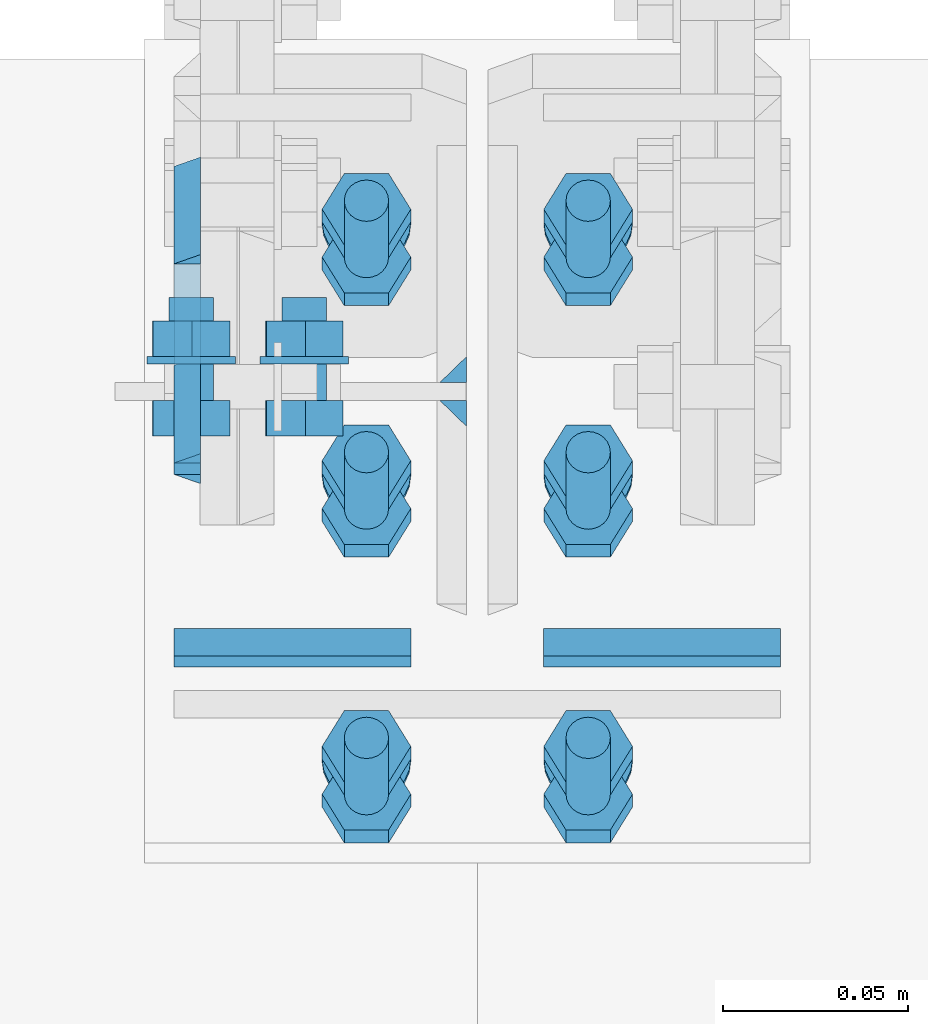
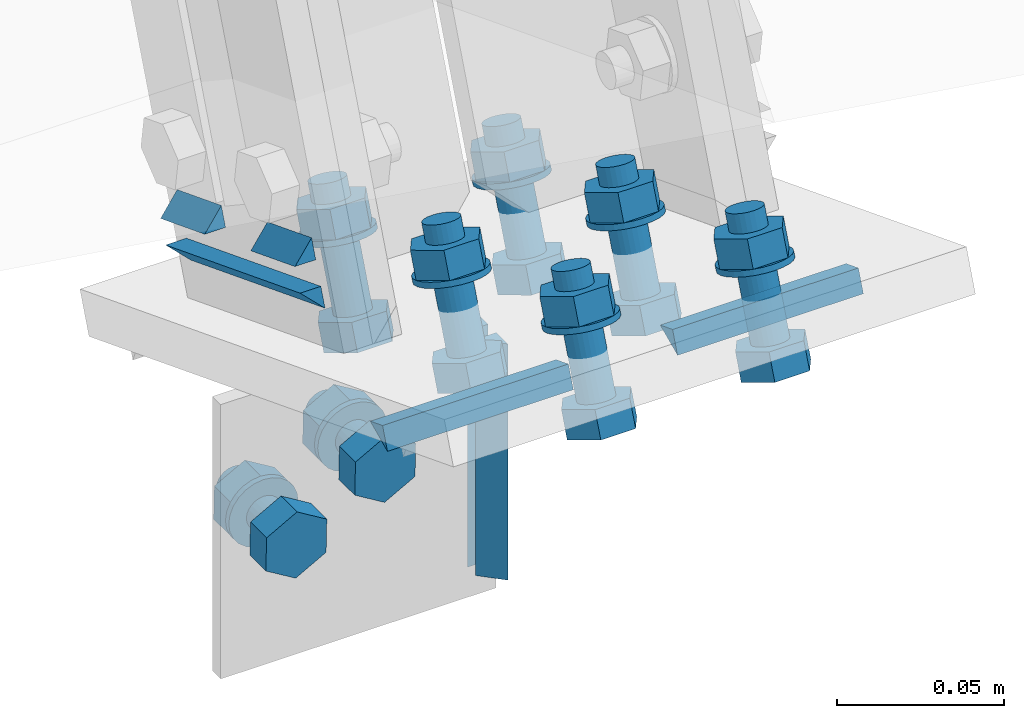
# One storey, part 44 of 72: 32 mechanical fasteners, 11 fasteners.
"""IFC4 building model written with IfcOpenShell, lengths in metres."""

from ifc_helpers import new_model, si_unit, frame, origin_with_axes, place, context, project, spatial, polyline, outline, extrude, type_object, element, save


model = new_model("IFC4")

# Units and contexts
model_context = context("Model", 3, precision=1e-05, world=origin_with_axes())
ifc_project = project(units=[si_unit("LENGTHUNIT", "METRE"), si_unit("AREAUNIT", "SQUARE_METRE"), si_unit("VOLUMEUNIT", "CUBIC_METRE"), si_unit("MASSUNIT", "GRAM", prefix="KILO"), si_unit("TIMEUNIT", "SECOND"), si_unit("PLANEANGLEUNIT", "RADIAN"), si_unit("SOLIDANGLEUNIT", "STERADIAN"), si_unit("THERMODYNAMICTEMPERATUREUNIT", "DEGREE_CELSIUS")], contexts=[model_context])

# Site, building, storey
placement_1 = place(None, origin_with_axes())
site = spatial("IfcSite", under=ifc_project, at=placement_1, Name="Italia", CompositionType="ELEMENT")
building = spatial("IfcBuilding", under=site, at=placement_1, Name="Uffici", CompositionType="ELEMENT")
storey = spatial("IfcBuildingStorey", under=building, at=placement_1, Name="Storey 0", CompositionType="ELEMENT", Elevation=0.0)

# Mechanical fasteners
mechanical_fastener_type_1 = type_object("IfcMechanicalFastenerType", Name="Collegamento 0207_0106", PredefinedType="BOLT")
placement_2 = place(placement_1, origin_with_axes())
mechanical_fastener_1_placement = place(placement_2, origin_with_axes())
element("IfcMechanicalFastener", 1, at=mechanical_fastener_1_placement, inside=storey, type_object=mechanical_fastener_type_1, Name="Collegamento 0207_0106", NominalDiameter=0.012, context=model_context, shape_type="SweptSolid", body=[
    extrude(outline(polyline([(0.0, 0.0), (0.0105102, 0.00579119), (0.0107501, 0.0177889), (0.000479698, 0.0239954), (-0.0100305, 0.0182042), (-0.0102704, 0.00620651), (0.0, 0.0)])), frame((3.15797, 4.8075, 5.07431), z_axis=(0.0, -1.0, 0.0), x_axis=(1.0, 0.0, 0.0)), (0.0, 0.0, 1.0), 0.00959969),
])
mechanical_fastener_type_2 = type_object("IfcMechanicalFastenerType", Name="Collegamento 0207_0106", PredefinedType="BOLT")
mechanical_fastener_2_placement = place(placement_2, origin_with_axes())
element("IfcMechanicalFastener", 2, at=mechanical_fastener_2_placement, inside=storey, type_object=mechanical_fastener_type_2, Name="Collegamento 0207_0106", NominalDiameter=0.012, context=model_context, shape_type="SweptSolid", body=[
    extrude(outline(polyline([(0.0, 0.0), (-0.000204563, -0.00155306), (-0.000803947, -0.00299978), (-0.00175738, -0.00424242), (-0.00300002, -0.00519609), (-0.00444722, -0.00579548), (-0.00600004, -0.00600004), (-0.00755286, -0.00579548), (-0.00900006, -0.00519609), (-0.0102427, -0.00424242), (-0.0111961, -0.00299978), (-0.0117955, -0.00155306), (-0.0120001, 0.0), (-0.0117955, 0.00155306), (-0.0111961, 0.00299978), (-0.0102427, 0.00424242), (-0.00900006, 0.00519609), (-0.00755286, 0.00579548), (-0.00600004, 0.00600004), (-0.00444722, 0.00579548), (-0.00300002, 0.00519609), (-0.00175738, 0.00424242), (-0.000803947, 0.00299978), (-0.000204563, 0.00155306), (0.0, 0.0)])), frame((3.16421, 4.8355, 5.0863), z_axis=(0.0, -1.0, 0.0), x_axis=(1.0, 0.0, 0.0)), (0.0, 0.0, 1.0), 0.0280004),
])
mechanical_fastener_type_3 = type_object("IfcMechanicalFastenerType", Name="Collegamento 0207_0106", PredefinedType="BOLT")
mechanical_fastener_3_placement = place(placement_2, origin_with_axes())
element("IfcMechanicalFastener", 3, at=mechanical_fastener_3_placement, inside=storey, type_object=mechanical_fastener_type_3, Name="Collegamento 0207_0106", NominalDiameter=0.012, context=model_context, shape_type="SweptSolid", body=[
    extrude(outline(polyline([(0.0, 0.0), (0.0105102, 0.00579119), (0.0107501, 0.0177889), (0.000479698, 0.0239954), (-0.0100305, 0.0182042), (-0.0102704, 0.00620651), (0.0, 0.0)])), frame((3.15797, 4.8291, 5.07431), z_axis=(0.0, -1.0, 0.0), x_axis=(1.0, 0.0, 0.0)), (0.0, 0.0, 1.0), 0.00960016),
])
mechanical_fastener_type_4 = type_object("IfcMechanicalFastenerType", Name="Collegamento 0207_0106", PredefinedType="BOLT")
mechanical_fastener_4_placement = place(placement_2, origin_with_axes())
element("IfcMechanicalFastener", 4, at=mechanical_fastener_4_placement, inside=storey, type_object=mechanical_fastener_type_4, Name="Collegamento 0207_0106", NominalDiameter=0.024, context=model_context, shape_type="SweptSolid", body=[
    extrude(outline(polyline([(0.0, 0.0), (-0.000408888, -0.00310564), (-0.00160789, -0.00600004), (-0.00351477, -0.00848532), (-0.00600004, -0.0103922), (-0.00889421, -0.011591), (-0.0120001, -0.0120001), (-0.015106, -0.011591), (-0.0180001, -0.0103922), (-0.0204854, -0.00848532), (-0.0223923, -0.00600004), (-0.0235913, -0.00310564), (-0.0240002, 0.0), (-0.0235913, 0.00310564), (-0.0223923, 0.00600004), (-0.0204854, 0.00848532), (-0.0180001, 0.0103922), (-0.015106, 0.011591), (-0.0120001, 0.0120001), (-0.00889421, 0.011591), (-0.00600004, 0.0103922), (-0.00351477, 0.00848532), (-0.00160789, 0.00600004), (-0.000408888, 0.00310564), (0.0, 0.0)])), frame((3.17021, 4.8195, 5.0863), z_axis=(0.0, -1.0, 0.0), x_axis=(1.0, 0.0, 0.0)), (0.0, 0.0, 1.0), 0.00199986),
])
mechanical_fastener_type_5 = type_object("IfcMechanicalFastenerType", Name="Collegamento 0207_0106", PredefinedType="BOLT")
mechanical_fastener_5_placement = place(placement_2, origin_with_axes())
element("IfcMechanicalFastener", 5, at=mechanical_fastener_5_placement, inside=storey, type_object=mechanical_fastener_type_5, Name="Collegamento 0207_0106", NominalDiameter=0.0119996, context=model_context, shape_type="SweptSolid", body=[
    extrude(outline(polyline([(0.0, 0.0), (0.0105102, 0.00579119), (0.0107498, 0.0177884), (0.00047946, 0.0239949), (-0.0100305, 0.0182037), (-0.0102704, 0.00620604), (0.0, 0.0)])), frame((3.12731, 4.8075, 5.05741), z_axis=(0.0, -1.0, 0.0), x_axis=(1.0, 0.0, 0.0)), (0.0, 0.0, 1.0), 0.00959969),
])
mechanical_fastener_type_6 = type_object("IfcMechanicalFastenerType", Name="Collegamento 0207_0106", PredefinedType="BOLT")
mechanical_fastener_6_placement = place(placement_2, origin_with_axes())
element("IfcMechanicalFastener", 6, at=mechanical_fastener_6_placement, inside=storey, type_object=mechanical_fastener_type_6, Name="Collegamento 0207_0106", NominalDiameter=0.012, context=model_context, shape_type="SweptSolid", body=[
    extrude(outline(polyline([(0.0, 0.0), (-0.000204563, -0.00155306), (-0.000803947, -0.00299978), (-0.00175738, -0.00424242), (-0.00300002, -0.00519609), (-0.00444722, -0.00579548), (-0.00600004, -0.00600004), (-0.00755286, -0.00579548), (-0.00900006, -0.00519609), (-0.0102427, -0.00424242), (-0.0111961, -0.00299978), (-0.0117955, -0.00155306), (-0.0120001, 0.0), (-0.0117955, 0.00155306), (-0.0111961, 0.00299978), (-0.0102427, 0.00424242), (-0.00900006, 0.00519609), (-0.00755286, 0.00579548), (-0.00600004, 0.00600004), (-0.00444722, 0.00579548), (-0.00300002, 0.00519609), (-0.00175738, 0.00424242), (-0.000803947, 0.00299978), (-0.000204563, 0.00155306), (0.0, 0.0)])), frame((3.13355, 4.8355, 5.06941), z_axis=(0.0, -1.0, 0.0), x_axis=(1.0, 0.0, 0.0)), (0.0, 0.0, 1.0), 0.0280004),
])
mechanical_fastener_type_7 = type_object("IfcMechanicalFastenerType", Name="Collegamento 0207_0106", PredefinedType="BOLT")
mechanical_fastener_7_placement = place(placement_2, origin_with_axes())
element("IfcMechanicalFastener", 7, at=mechanical_fastener_7_placement, inside=storey, type_object=mechanical_fastener_type_7, Name="Collegamento 0207_0106", NominalDiameter=0.0119996, context=model_context, shape_type="SweptSolid", body=[
    extrude(outline(polyline([(0.0, 0.0), (0.0105102, 0.00579119), (0.0107498, 0.0177884), (0.00047946, 0.0239949), (-0.0100305, 0.0182037), (-0.0102704, 0.00620604), (0.0, 0.0)])), frame((3.12731, 4.8291, 5.05741), z_axis=(0.0, -1.0, 0.0), x_axis=(1.0, 0.0, 0.0)), (0.0, 0.0, 1.0), 0.00960016),
])
mechanical_fastener_type_8 = type_object("IfcMechanicalFastenerType", Name="Collegamento 0207_0106", PredefinedType="BOLT")
mechanical_fastener_8_placement = place(placement_2, origin_with_axes())
element("IfcMechanicalFastener", 8, at=mechanical_fastener_8_placement, inside=storey, type_object=mechanical_fastener_type_8, Name="Collegamento 0207_0106", NominalDiameter=0.024, context=model_context, shape_type="SweptSolid", body=[
    extrude(outline(polyline([(0.0, 0.0), (-0.000408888, -0.00310564), (-0.00160789, -0.00600004), (-0.00351477, -0.00848532), (-0.00600004, -0.0103922), (-0.00889421, -0.011591), (-0.0120001, -0.0120001), (-0.015106, -0.011591), (-0.0180001, -0.0103922), (-0.0204854, -0.00848532), (-0.0223923, -0.00600004), (-0.0235913, -0.00310564), (-0.0240002, 0.0), (-0.0235913, 0.00310564), (-0.0223923, 0.00600004), (-0.0204854, 0.00848532), (-0.0180001, 0.0103922), (-0.015106, 0.011591), (-0.0120001, 0.0120001), (-0.00889421, 0.011591), (-0.00600004, 0.0103922), (-0.00351477, 0.00848532), (-0.00160789, 0.00600004), (-0.000408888, 0.00310564), (0.0, 0.0)])), frame((3.13955, 4.8195, 5.06941), z_axis=(0.0, -1.0, 0.0), x_axis=(1.0, 0.0, 0.0)), (0.0, 0.0, 1.0), 0.00199986),
])

# Fasteners
fastener_type_1 = type_object("IfcFastenerType", Name="Collegamento 0207_0106", PredefinedType="WELD")
fastener_1_placement = place(placement_2, origin_with_axes())
element("IfcFastener", 9, at=fastener_1_placement, inside=storey, type_object=fastener_type_1, Name="Collegamento 0207_0106", context=model_context, shape_type="SweptSolid", body=[
    extrude(outline(polyline([(0.0, 0.0), (-0.00695801, -0.00717354), (-0.00695801, 0.0), (0.0, 0.0)])), frame((3.20205, 4.81941, 5.115), z_axis=(0.0, 0.0, -1.0), x_axis=(0.0, 1.0, 0.0)), (0.0, 0.0, 1.0), 0.0860996),
])
fastener_type_2 = type_object("IfcFastenerType", Name="Collegamento 0207_0106", PredefinedType="WELD")
fastener_2_placement = place(placement_2, origin_with_axes())
element("IfcFastener", 10, at=fastener_2_placement, inside=storey, type_object=fastener_type_2, Name="Collegamento 0207_0106", context=model_context, shape_type="SweptSolid", body=[
    extrude(outline(polyline([(0.0, 0.0), (0.00695801, 0.00717354), (0.00695801, 0.0), (0.0, 0.0)])), frame((3.20205, 4.80059, 5.0289), z_axis=(0.0, 0.0, 1.0), x_axis=(0.0, 1.0, 0.0)), (0.0, 0.0, 1.0), 0.0860996),
])
fastener_type_3 = type_object("IfcFastenerType", Name="Collegamento 0207_0107", PredefinedType="WELD")
fastener_3_placement = place(placement_2, origin_with_axes())
element("IfcFastener", 11, at=fastener_3_placement, inside=storey, type_object=fastener_type_3, Name="Collegamento 0207_0107", context=model_context, shape_type="SweptSolid", body=[
    extrude(outline(polyline([(0.0, 0.0), (-0.0103469, -0.00475407), (-0.00739193, 0.00286627), (0.0, 0.0)])), frame((3.22295, 4.74586, 5.14777), z_axis=(1.0, 0.0, 0.0), x_axis=(0.0, 1.0, 0.0)), (0.0, 0.0, 1.0), 0.0640998),
])
fastener_type_4 = type_object("IfcFastenerType", Name="Collegamento 0207_0107", PredefinedType="WELD")
fastener_4_placement = place(placement_2, origin_with_axes())
element("IfcFastener", 12, at=fastener_4_placement, inside=storey, type_object=fastener_type_4, Name="Collegamento 0207_0107", context=model_context, shape_type="SweptSolid", body=[
    extrude(outline(polyline([(0.0, 0.0), (-0.0103469, -0.00475407), (-0.00739193, 0.00286627), (0.0, 0.0)])), frame((3.12295, 4.74586, 5.14777), z_axis=(1.0, 0.0, 0.0), x_axis=(0.0, 1.0, 0.0)), (0.0, 0.0, 1.0), 0.0640998),
])
fastener_type_5 = type_object("IfcFastenerType", Name="Collegamento 0207_0107", PredefinedType="WELD")
fastener_5_placement = place(placement_2, origin_with_axes())
element("IfcFastener", 13, at=fastener_5_placement, inside=storey, type_object=fastener_type_5, Name="Collegamento 0207_0107", context=model_context, shape_type="SweptSolid", body=[
    extrude(outline(polyline([(0.0, 0.0), (-0.0103469, -0.00475407), (-0.00739193, 0.00286627), (0.0, 0.0)])), frame((3.22295, 4.74586, 5.14777), z_axis=(1.0, 0.0, 0.0), x_axis=(0.0, 1.0, 0.0)), (0.0, 0.0, 1.0), 0.0640998),
])
fastener_type_6 = type_object("IfcFastenerType", Name="Collegamento 0207_0107", PredefinedType="WELD")
fastener_6_placement = place(placement_2, origin_with_axes())
element("IfcFastener", 14, at=fastener_6_placement, inside=storey, type_object=fastener_type_6, Name="Collegamento 0207_0107", context=model_context, shape_type="SweptSolid", body=[
    extrude(outline(polyline([(0.0, 0.0), (-0.0103469, -0.00475407), (-0.00739193, 0.00286627), (0.0, 0.0)])), frame((3.12295, 4.74586, 5.14777), z_axis=(1.0, 0.0, 0.0), x_axis=(0.0, 1.0, 0.0)), (0.0, 0.0, 1.0), 0.0640998),
])

# Mechanical fasteners
mechanical_fastener_type_9 = type_object("IfcMechanicalFastenerType", Name="Collegamento 0207_0107", PredefinedType="BOLT")
mechanical_fastener_9_placement = place(placement_2, origin_with_axes())
element("IfcMechanicalFastener", 15, at=mechanical_fastener_9_placement, inside=storey, type_object=mechanical_fastener_type_9, Name="Collegamento 0207_0107", NominalDiameter=0.0119999, context=model_context, shape_type="SweptSolid", body=[
    extrude(outline(polyline([(0.0, 0.0), (0.0120001, 0.0), (0.0180001, -0.0103922), (0.0120001, -0.0207846), (0.0, -0.0207846), (-0.00600004, -0.0103922), (0.0, 0.0)])), frame((3.229, 4.76862, 5.1389), z_axis=(0.0, -0.361504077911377, -0.932370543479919), x_axis=(1.0, 0.0, 0.0)), (0.0, 0.0, 1.0), 0.00959995),
])
mechanical_fastener_type_10 = type_object("IfcMechanicalFastenerType", Name="Collegamento 0207_0107", PredefinedType="BOLT")
mechanical_fastener_10_placement = place(placement_2, origin_with_axes())
element("IfcMechanicalFastener", 16, at=mechanical_fastener_10_placement, inside=storey, type_object=mechanical_fastener_type_10, Name="Collegamento 0207_0107", NominalDiameter=0.012, context=model_context, shape_type="SweptSolid", body=[
    extrude(outline(polyline([(0.0, 0.0), (-0.000204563, -0.00155282), (-0.000803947, -0.00300002), (-0.00175738, -0.00424314), (-0.00300002, -0.00519633), (-0.00444722, -0.00579524), (-0.00600004, -0.0059998), (-0.00755286, -0.00579524), (-0.00900006, -0.00519633), (-0.0102427, -0.00424314), (-0.0111961, -0.00300002), (-0.0117955, -0.00155282), (-0.0120001, 0.0), (-0.0117955, 0.00155282), (-0.0111961, 0.00300002), (-0.0102427, 0.0042429), (-0.00900006, 0.00519633), (-0.00755286, 0.00579572), (-0.00600004, 0.0059998), (-0.00444722, 0.00579572), (-0.00300002, 0.00519633), (-0.00175738, 0.0042429), (-0.000803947, 0.00300002), (-0.000204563, 0.00155282), (0.0, 0.0)])), frame((3.241, 4.79357, 5.17448), z_axis=(0.0, -0.361535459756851, -0.932358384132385), x_axis=(1.0, 0.0, 0.0)), (0.0, 0.0, 1.0), 0.0422002),
])
mechanical_fastener_type_11 = type_object("IfcMechanicalFastenerType", Name="Collegamento 0207_0107", PredefinedType="BOLT")
mechanical_fastener_11_placement = place(placement_2, origin_with_axes())
element("IfcMechanicalFastener", 17, at=mechanical_fastener_11_placement, inside=storey, type_object=mechanical_fastener_type_11, Name="Collegamento 0207_0107", NominalDiameter=0.0119999, context=model_context, shape_type="SweptSolid", body=[
    extrude(outline(polyline([(0.0, 0.0), (0.0120001, 0.0), (0.0180001, -0.0103927), (0.0120001, -0.0207846), (0.0, -0.0207846), (-0.00600004, -0.0103927), (0.0, 0.0)])), frame((3.229, 4.78156, 5.17227), z_axis=(0.0, -0.361563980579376, -0.932347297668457), x_axis=(1.0, 0.0, 0.0)), (0.0, 0.0, 1.0), 0.00959968),
])
mechanical_fastener_type_12 = type_object("IfcMechanicalFastenerType", Name="Collegamento 0207_0107", PredefinedType="BOLT")
mechanical_fastener_12_placement = place(placement_2, origin_with_axes())
element("IfcMechanicalFastener", 18, at=mechanical_fastener_12_placement, inside=storey, type_object=mechanical_fastener_type_12, Name="Collegamento 0207_0107", NominalDiameter=0.024, context=model_context, shape_type="SweptSolid", body=[
    extrude(outline(polyline([(0.0, 0.0), (-0.000408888, -0.00310612), (-0.00160789, -0.00600004), (-0.00351477, -0.00848579), (-0.00600004, -0.0103927), (-0.00889421, -0.0115914), (-0.0120001, -0.0120001), (-0.015106, -0.0115914), (-0.0180001, -0.0103927), (-0.0204854, -0.00848579), (-0.0223923, -0.00600004), (-0.0235913, -0.00310612), (-0.0240002, 0.0), (-0.0235913, 0.00310564), (-0.0223923, 0.00600004), (-0.0204854, 0.00848532), (-0.0180001, 0.0103922), (-0.015106, 0.0115914), (-0.0120001, 0.0119996), (-0.00889421, 0.0115914), (-0.00600004, 0.0103922), (-0.00351477, 0.00848532), (-0.00160789, 0.00600004), (-0.000408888, 0.00310564), (0.0, 0.0)])), frame((3.247, 4.78778, 5.15957), z_axis=(0.0, -0.361341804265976, -0.932433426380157), x_axis=(1.0, 0.0, 0.0)), (0.0, 0.0, 1.0), 0.00200056),
])
mechanical_fastener_type_13 = type_object("IfcMechanicalFastenerType", Name="Collegamento 0207_0107", PredefinedType="BOLT")
mechanical_fastener_13_placement = place(placement_2, origin_with_axes())
element("IfcMechanicalFastener", 19, at=mechanical_fastener_13_placement, inside=storey, type_object=mechanical_fastener_type_13, Name="Collegamento 0207_0107", NominalDiameter=0.0119999, context=model_context, shape_type="SweptSolid", body=[
    extrude(outline(polyline([(0.0, 0.0), (0.0120001, 0.0), (0.0180001, -0.0103922), (0.0120001, -0.0207846), (0.0, -0.0207846), (-0.00600004, -0.0103922), (0.0, 0.0)])), frame((3.169, 4.76862, 5.1389), z_axis=(0.0, -0.361504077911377, -0.932370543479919), x_axis=(1.0, 0.0, 0.0)), (0.0, 0.0, 1.0), 0.00959995),
])
mechanical_fastener_type_14 = type_object("IfcMechanicalFastenerType", Name="Collegamento 0207_0107", PredefinedType="BOLT")
mechanical_fastener_14_placement = place(placement_2, origin_with_axes())
element("IfcMechanicalFastener", 20, at=mechanical_fastener_14_placement, inside=storey, type_object=mechanical_fastener_type_14, Name="Collegamento 0207_0107", NominalDiameter=0.012, context=model_context, shape_type="SweptSolid", body=[
    extrude(outline(polyline([(0.0, 0.0), (-0.000204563, -0.00155282), (-0.000803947, -0.00300002), (-0.00175738, -0.00424314), (-0.00300002, -0.00519633), (-0.00444722, -0.00579524), (-0.00600004, -0.0059998), (-0.00755286, -0.00579524), (-0.00900006, -0.00519633), (-0.0102427, -0.00424314), (-0.0111961, -0.00300002), (-0.0117955, -0.00155282), (-0.0120001, 0.0), (-0.0117955, 0.00155282), (-0.0111961, 0.00300002), (-0.0102427, 0.0042429), (-0.00900006, 0.00519633), (-0.00755286, 0.00579572), (-0.00600004, 0.0059998), (-0.00444722, 0.00579572), (-0.00300002, 0.00519633), (-0.00175738, 0.0042429), (-0.000803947, 0.00300002), (-0.000204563, 0.00155282), (0.0, 0.0)])), frame((3.181, 4.79357, 5.17448), z_axis=(0.0, -0.361535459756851, -0.932358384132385), x_axis=(1.0, 0.0, 0.0)), (0.0, 0.0, 1.0), 0.0422002),
])
mechanical_fastener_type_15 = type_object("IfcMechanicalFastenerType", Name="Collegamento 0207_0107", PredefinedType="BOLT")
mechanical_fastener_15_placement = place(placement_2, origin_with_axes())
element("IfcMechanicalFastener", 21, at=mechanical_fastener_15_placement, inside=storey, type_object=mechanical_fastener_type_15, Name="Collegamento 0207_0107", NominalDiameter=0.0119999, context=model_context, shape_type="SweptSolid", body=[
    extrude(outline(polyline([(0.0, 0.0), (0.0120001, 0.0), (0.0180001, -0.0103927), (0.0120001, -0.0207846), (0.0, -0.0207846), (-0.00600004, -0.0103927), (0.0, 0.0)])), frame((3.169, 4.78156, 5.17227), z_axis=(0.0, -0.361563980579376, -0.932347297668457), x_axis=(1.0, 0.0, 0.0)), (0.0, 0.0, 1.0), 0.00959968),
])
mechanical_fastener_type_16 = type_object("IfcMechanicalFastenerType", Name="Collegamento 0207_0107", PredefinedType="BOLT")
mechanical_fastener_16_placement = place(placement_2, origin_with_axes())
element("IfcMechanicalFastener", 22, at=mechanical_fastener_16_placement, inside=storey, type_object=mechanical_fastener_type_16, Name="Collegamento 0207_0107", NominalDiameter=0.024, context=model_context, shape_type="SweptSolid", body=[
    extrude(outline(polyline([(0.0, 0.0), (-0.000408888, -0.00310612), (-0.00160789, -0.00600004), (-0.00351477, -0.00848579), (-0.00600004, -0.0103927), (-0.00889421, -0.0115914), (-0.0120001, -0.0120001), (-0.015106, -0.0115914), (-0.0180001, -0.0103927), (-0.0204854, -0.00848579), (-0.0223923, -0.00600004), (-0.0235913, -0.00310612), (-0.0240002, 0.0), (-0.0235913, 0.00310564), (-0.0223923, 0.00600004), (-0.0204854, 0.00848532), (-0.0180001, 0.0103922), (-0.015106, 0.0115914), (-0.0120001, 0.0119996), (-0.00889421, 0.0115914), (-0.00600004, 0.0103922), (-0.00351477, 0.00848532), (-0.00160789, 0.00600004), (-0.000408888, 0.00310564), (0.0, 0.0)])), frame((3.187, 4.78778, 5.15957), z_axis=(0.0, -0.361341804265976, -0.932433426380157), x_axis=(1.0, 0.0, 0.0)), (0.0, 0.0, 1.0), 0.00200056),
])
mechanical_fastener_type_17 = type_object("IfcMechanicalFastenerType", Name="Collegamento 0207_0107", PredefinedType="BOLT")
mechanical_fastener_17_placement = place(placement_2, origin_with_axes())
element("IfcMechanicalFastener", 23, at=mechanical_fastener_17_placement, inside=storey, type_object=mechanical_fastener_type_17, Name="Collegamento 0207_0107", NominalDiameter=0.0120001, context=model_context, shape_type="SweptSolid", body=[
    extrude(outline(polyline([(0.0, 0.0), (0.0120001, 0.0), (0.0180001, -0.0103924), (0.0120001, -0.0207853), (0.0, -0.0207853), (-0.00600004, -0.0103924), (0.0, 0.0)])), frame((3.229, 4.83668, 5.1125), z_axis=(0.0, -0.361504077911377, -0.932370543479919), x_axis=(1.0, 0.0, 0.0)), (0.0, 0.0, 1.0), 0.00959995),
])
mechanical_fastener_type_18 = type_object("IfcMechanicalFastenerType", Name="Collegamento 0207_0107", PredefinedType="BOLT")
mechanical_fastener_18_placement = place(placement_2, origin_with_axes())
element("IfcMechanicalFastener", 24, at=mechanical_fastener_18_placement, inside=storey, type_object=mechanical_fastener_type_18, Name="Collegamento 0207_0107", NominalDiameter=0.012, context=model_context, shape_type="SweptSolid", body=[
    extrude(outline(polyline([(0.0, 0.0), (-0.000204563, -0.00155306), (-0.000803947, -0.00300002), (-0.00175738, -0.0042429), (-0.00300002, -0.00519657), (-0.00444722, -0.00579596), (-0.00600004, -0.00600052), (-0.00755286, -0.00579596), (-0.00900006, -0.00519657), (-0.0102427, -0.0042429), (-0.0111961, -0.00300002), (-0.0117955, -0.00155306), (-0.0120001, 0.0), (-0.0117955, 0.00155258), (-0.0111961, 0.00299978), (-0.0102427, 0.0042429), (-0.00900006, 0.00519609), (-0.00755286, 0.00579548), (-0.00600004, 0.00599957), (-0.00444722, 0.00579548), (-0.00300002, 0.00519609), (-0.00175738, 0.0042429), (-0.000803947, 0.00299978), (-0.000204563, 0.00155258), (0.0, 0.0)])), frame((3.241, 4.86163, 5.14809), z_axis=(0.0, -0.361519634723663, -0.932364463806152), x_axis=(1.0, 0.0, 0.0)), (0.0, 0.0, 1.0), 0.0421994),
])
mechanical_fastener_type_19 = type_object("IfcMechanicalFastenerType", Name="Collegamento 0207_0107", PredefinedType="BOLT")
mechanical_fastener_19_placement = place(placement_2, origin_with_axes())
element("IfcMechanicalFastener", 25, at=mechanical_fastener_19_placement, inside=storey, type_object=mechanical_fastener_type_19, Name="Collegamento 0207_0107", NominalDiameter=0.0119999, context=model_context, shape_type="SweptSolid", body=[
    extrude(outline(polyline([(0.0, 0.0), (0.0120001, 0.0), (0.0180001, -0.0103922), (0.0120001, -0.0207846), (0.0, -0.0207846), (-0.00600004, -0.0103922), (0.0, 0.0)])), frame((3.229, 4.84962, 5.14588), z_axis=(0.0, -0.361504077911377, -0.932370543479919), x_axis=(1.0, 0.0, 0.0)), (0.0, 0.0, 1.0), 0.00959995),
])
mechanical_fastener_type_20 = type_object("IfcMechanicalFastenerType", Name="Collegamento 0207_0107", PredefinedType="BOLT")
mechanical_fastener_20_placement = place(placement_2, origin_with_axes())
element("IfcMechanicalFastener", 26, at=mechanical_fastener_20_placement, inside=storey, type_object=mechanical_fastener_type_20, Name="Collegamento 0207_0107", NominalDiameter=0.024, context=model_context, shape_type="SweptSolid", body=[
    extrude(outline(polyline([(0.0, 0.0), (-0.000408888, -0.00310564), (-0.00160789, -0.00600028), (-0.00351477, -0.00848508), (-0.00600004, -0.0103922), (-0.00889421, -0.011591), (-0.0120001, -0.0120001), (-0.015106, -0.011591), (-0.0180001, -0.0103922), (-0.0204854, -0.00848508), (-0.0223923, -0.00600028), (-0.0235913, -0.00310564), (-0.0240002, 0.0), (-0.0235913, 0.00310564), (-0.0223923, 0.00600028), (-0.0204854, 0.00848508), (-0.0180001, 0.0103922), (-0.015106, 0.011591), (-0.0120001, 0.0120001), (-0.00889421, 0.011591), (-0.00600004, 0.0103922), (-0.00351477, 0.00848508), (-0.00160789, 0.00600028), (-0.000408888, 0.00310564), (0.0, 0.0)])), frame((3.247, 4.85584, 5.13317), z_axis=(0.0, -0.361502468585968, -0.932371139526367), x_axis=(1.0, 0.0, 0.0)), (0.0, 0.0, 1.0), 0.00199967),
])
mechanical_fastener_type_21 = type_object("IfcMechanicalFastenerType", Name="Collegamento 0207_0107", PredefinedType="BOLT")
mechanical_fastener_21_placement = place(placement_2, origin_with_axes())
element("IfcMechanicalFastener", 27, at=mechanical_fastener_21_placement, inside=storey, type_object=mechanical_fastener_type_21, Name="Collegamento 0207_0107", NominalDiameter=0.0120001, context=model_context, shape_type="SweptSolid", body=[
    extrude(outline(polyline([(0.0, 0.0), (0.0120001, 0.0), (0.0180001, -0.0103924), (0.0120001, -0.0207853), (0.0, -0.0207853), (-0.00600004, -0.0103924), (0.0, 0.0)])), frame((3.169, 4.83668, 5.1125), z_axis=(0.0, -0.361504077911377, -0.932370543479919), x_axis=(1.0, 0.0, 0.0)), (0.0, 0.0, 1.0), 0.00959995),
])
mechanical_fastener_type_22 = type_object("IfcMechanicalFastenerType", Name="Collegamento 0207_0107", PredefinedType="BOLT")
mechanical_fastener_22_placement = place(placement_2, origin_with_axes())
element("IfcMechanicalFastener", 28, at=mechanical_fastener_22_placement, inside=storey, type_object=mechanical_fastener_type_22, Name="Collegamento 0207_0107", NominalDiameter=0.012, context=model_context, shape_type="SweptSolid", body=[
    extrude(outline(polyline([(0.0, 0.0), (-0.000204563, -0.00155306), (-0.000803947, -0.00300002), (-0.00175738, -0.0042429), (-0.00300002, -0.00519657), (-0.00444722, -0.00579596), (-0.00600004, -0.00600052), (-0.00755286, -0.00579596), (-0.00900006, -0.00519657), (-0.0102427, -0.0042429), (-0.0111961, -0.00300002), (-0.0117955, -0.00155306), (-0.0120001, 0.0), (-0.0117955, 0.00155258), (-0.0111961, 0.00299978), (-0.0102427, 0.0042429), (-0.00900006, 0.00519609), (-0.00755286, 0.00579548), (-0.00600004, 0.00599957), (-0.00444722, 0.00579548), (-0.00300002, 0.00519609), (-0.00175738, 0.0042429), (-0.000803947, 0.00299978), (-0.000204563, 0.00155258), (0.0, 0.0)])), frame((3.181, 4.86163, 5.14809), z_axis=(0.0, -0.361519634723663, -0.932364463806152), x_axis=(1.0, 0.0, 0.0)), (0.0, 0.0, 1.0), 0.0421994),
])
mechanical_fastener_type_23 = type_object("IfcMechanicalFastenerType", Name="Collegamento 0207_0107", PredefinedType="BOLT")
mechanical_fastener_23_placement = place(placement_2, origin_with_axes())
element("IfcMechanicalFastener", 29, at=mechanical_fastener_23_placement, inside=storey, type_object=mechanical_fastener_type_23, Name="Collegamento 0207_0107", NominalDiameter=0.0119999, context=model_context, shape_type="SweptSolid", body=[
    extrude(outline(polyline([(0.0, 0.0), (0.0120001, 0.0), (0.0180001, -0.0103922), (0.0120001, -0.0207846), (0.0, -0.0207846), (-0.00600004, -0.0103922), (0.0, 0.0)])), frame((3.169, 4.84962, 5.14588), z_axis=(0.0, -0.361504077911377, -0.932370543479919), x_axis=(1.0, 0.0, 0.0)), (0.0, 0.0, 1.0), 0.00959995),
])
mechanical_fastener_type_24 = type_object("IfcMechanicalFastenerType", Name="Collegamento 0207_0107", PredefinedType="BOLT")
mechanical_fastener_24_placement = place(placement_2, origin_with_axes())
element("IfcMechanicalFastener", 30, at=mechanical_fastener_24_placement, inside=storey, type_object=mechanical_fastener_type_24, Name="Collegamento 0207_0107", NominalDiameter=0.024, context=model_context, shape_type="SweptSolid", body=[
    extrude(outline(polyline([(0.0, 0.0), (-0.000408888, -0.00310564), (-0.00160789, -0.00600028), (-0.00351477, -0.00848508), (-0.00600004, -0.0103922), (-0.00889421, -0.011591), (-0.0120001, -0.0120001), (-0.015106, -0.011591), (-0.0180001, -0.0103922), (-0.0204854, -0.00848508), (-0.0223923, -0.00600028), (-0.0235913, -0.00310564), (-0.0240002, 0.0), (-0.0235913, 0.00310564), (-0.0223923, 0.00600028), (-0.0204854, 0.00848508), (-0.0180001, 0.0103922), (-0.015106, 0.011591), (-0.0120001, 0.0120001), (-0.00889421, 0.011591), (-0.00600004, 0.0103922), (-0.00351477, 0.00848508), (-0.00160789, 0.00600028), (-0.000408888, 0.00310564), (0.0, 0.0)])), frame((3.187, 4.85584, 5.13317), z_axis=(0.0, -0.361502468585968, -0.932371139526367), x_axis=(1.0, 0.0, 0.0)), (0.0, 0.0, 1.0), 0.00199967),
])
mechanical_fastener_type_25 = type_object("IfcMechanicalFastenerType", Name="Collegamento 0207_0107", PredefinedType="BOLT")
mechanical_fastener_25_placement = place(placement_2, origin_with_axes())
element("IfcMechanicalFastener", 31, at=mechanical_fastener_25_placement, inside=storey, type_object=mechanical_fastener_type_25, Name="Collegamento 0207_0107", NominalDiameter=0.0119999, context=model_context, shape_type="SweptSolid", body=[
    extrude(outline(polyline([(0.0, 0.0), (0.0120001, 0.0), (0.0180001, -0.0103922), (0.0120001, -0.0207849), (0.0, -0.0207849), (-0.00600004, -0.0103922), (0.0, 0.0)])), frame((3.229, 4.69133, 5.16887), z_axis=(0.0, -0.361547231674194, -0.932353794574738), x_axis=(1.0, 0.0, 0.0)), (0.0, 0.0, 1.0), 0.00960012),
])
mechanical_fastener_type_26 = type_object("IfcMechanicalFastenerType", Name="Collegamento 0207_0107", PredefinedType="BOLT")
mechanical_fastener_26_placement = place(placement_2, origin_with_axes())
element("IfcMechanicalFastener", 32, at=mechanical_fastener_26_placement, inside=storey, type_object=mechanical_fastener_type_26, Name="Collegamento 0207_0107", NominalDiameter=0.012, context=model_context, shape_type="SweptSolid", body=[
    extrude(outline(polyline([(0.0, 0.0), (-0.000204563, -0.00155258), (-0.000803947, -0.00300026), (-0.00175738, -0.0042429), (-0.00300002, -0.00519609), (-0.00444722, -0.00579548), (-0.00600004, -0.00600004), (-0.00755286, -0.00579548), (-0.00900006, -0.00519609), (-0.0102427, -0.0042429), (-0.0111961, -0.00300026), (-0.0117955, -0.00155258), (-0.0120001, 0.0), (-0.0117955, 0.00155258), (-0.0111961, 0.00299978), (-0.0102427, 0.00424242), (-0.00900006, 0.00519609), (-0.00755286, 0.00579548), (-0.00600004, 0.00600004), (-0.00444722, 0.00579548), (-0.00300002, 0.00519609), (-0.00175738, 0.00424242), (-0.000803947, 0.00299978), (-0.000204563, 0.00155258), (0.0, 0.0)])), frame((3.241, 4.71627, 5.20445), z_axis=(0.0, -0.361519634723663, -0.932364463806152), x_axis=(1.0, 0.0, 0.0)), (0.0, 0.0, 1.0), 0.0421994),
])
mechanical_fastener_type_27 = type_object("IfcMechanicalFastenerType", Name="Collegamento 0207_0107", PredefinedType="BOLT")
mechanical_fastener_27_placement = place(placement_2, origin_with_axes())
element("IfcMechanicalFastener", 33, at=mechanical_fastener_27_placement, inside=storey, type_object=mechanical_fastener_type_27, Name="Collegamento 0207_0107", NominalDiameter=0.0119999, context=model_context, shape_type="SweptSolid", body=[
    extrude(outline(polyline([(0.0, 0.0), (0.0120001, 0.0), (0.0180001, -0.0103922), (0.0120001, -0.0207846), (0.0, -0.0207846), (-0.00600004, -0.0103922), (0.0, 0.0)])), frame((3.229, 4.70427, 5.20224), z_axis=(0.0, -0.361520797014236, -0.932364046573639), x_axis=(1.0, 0.0, 0.0)), (0.0, 0.0, 1.0), 0.0095995),
])
mechanical_fastener_type_28 = type_object("IfcMechanicalFastenerType", Name="Collegamento 0207_0107", PredefinedType="BOLT")
mechanical_fastener_28_placement = place(placement_2, origin_with_axes())
element("IfcMechanicalFastener", 34, at=mechanical_fastener_28_placement, inside=storey, type_object=mechanical_fastener_type_28, Name="Collegamento 0207_0107", NominalDiameter=0.024, context=model_context, shape_type="SweptSolid", body=[
    extrude(outline(polyline([(0.0, 0.0), (-0.000408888, -0.00310636), (-0.00160789, -0.00600028), (-0.00351477, -0.00848508), (-0.00600004, -0.0103924), (-0.00889421, -0.0115912), (-0.0120001, -0.0120003), (-0.015106, -0.0115912), (-0.0180001, -0.0103924), (-0.0204854, -0.00848508), (-0.0223923, -0.00600028), (-0.0235913, -0.00310636), (-0.0240002, 0.0), (-0.0235913, 0.00310588), (-0.0223923, 0.0059998), (-0.0204854, 0.00848508), (-0.0180001, 0.010392), (-0.015106, 0.011591), (-0.0120001, 0.0120001), (-0.00889421, 0.011591), (-0.00600004, 0.010392), (-0.00351477, 0.00848508), (-0.00160789, 0.0059998), (-0.000408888, 0.00310588), (0.0, 0.0)])), frame((3.247, 4.71049, 5.18954), z_axis=(0.0, -0.361502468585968, -0.932371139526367), x_axis=(1.0, 0.0, 0.0)), (0.0, 0.0, 1.0), 0.00199967),
])
mechanical_fastener_type_29 = type_object("IfcMechanicalFastenerType", Name="Collegamento 0207_0107", PredefinedType="BOLT")
mechanical_fastener_29_placement = place(placement_2, origin_with_axes())
element("IfcMechanicalFastener", 35, at=mechanical_fastener_29_placement, inside=storey, type_object=mechanical_fastener_type_29, Name="Collegamento 0207_0107", NominalDiameter=0.0119999, context=model_context, shape_type="SweptSolid", body=[
    extrude(outline(polyline([(0.0, 0.0), (0.0120001, 0.0), (0.0180001, -0.0103922), (0.0120001, -0.0207849), (0.0, -0.0207849), (-0.00600004, -0.0103922), (0.0, 0.0)])), frame((3.169, 4.69133, 5.16887), z_axis=(0.0, -0.361547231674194, -0.932353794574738), x_axis=(1.0, 0.0, 0.0)), (0.0, 0.0, 1.0), 0.00960012),
])
mechanical_fastener_type_30 = type_object("IfcMechanicalFastenerType", Name="Collegamento 0207_0107", PredefinedType="BOLT")
mechanical_fastener_30_placement = place(placement_2, origin_with_axes())
element("IfcMechanicalFastener", 36, at=mechanical_fastener_30_placement, inside=storey, type_object=mechanical_fastener_type_30, Name="Collegamento 0207_0107", NominalDiameter=0.012, context=model_context, shape_type="SweptSolid", body=[
    extrude(outline(polyline([(0.0, 0.0), (-0.000204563, -0.00155258), (-0.000803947, -0.00300026), (-0.00175738, -0.0042429), (-0.00300002, -0.00519609), (-0.00444722, -0.00579548), (-0.00600004, -0.00600004), (-0.00755286, -0.00579548), (-0.00900006, -0.00519609), (-0.0102427, -0.0042429), (-0.0111961, -0.00300026), (-0.0117955, -0.00155258), (-0.0120001, 0.0), (-0.0117955, 0.00155258), (-0.0111961, 0.00299978), (-0.0102427, 0.00424242), (-0.00900006, 0.00519609), (-0.00755286, 0.00579548), (-0.00600004, 0.00600004), (-0.00444722, 0.00579548), (-0.00300002, 0.00519609), (-0.00175738, 0.00424242), (-0.000803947, 0.00299978), (-0.000204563, 0.00155258), (0.0, 0.0)])), frame((3.181, 4.71627, 5.20445), z_axis=(0.0, -0.361519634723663, -0.932364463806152), x_axis=(1.0, 0.0, 0.0)), (0.0, 0.0, 1.0), 0.0421994),
])
mechanical_fastener_type_31 = type_object("IfcMechanicalFastenerType", Name="Collegamento 0207_0107", PredefinedType="BOLT")
mechanical_fastener_31_placement = place(placement_2, origin_with_axes())
element("IfcMechanicalFastener", 37, at=mechanical_fastener_31_placement, inside=storey, type_object=mechanical_fastener_type_31, Name="Collegamento 0207_0107", NominalDiameter=0.0119999, context=model_context, shape_type="SweptSolid", body=[
    extrude(outline(polyline([(0.0, 0.0), (0.0120001, 0.0), (0.0180001, -0.0103922), (0.0120001, -0.0207846), (0.0, -0.0207846), (-0.00600004, -0.0103922), (0.0, 0.0)])), frame((3.169, 4.70427, 5.20224), z_axis=(0.0, -0.361520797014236, -0.932364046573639), x_axis=(1.0, 0.0, 0.0)), (0.0, 0.0, 1.0), 0.0095995),
])
mechanical_fastener_type_32 = type_object("IfcMechanicalFastenerType", Name="Collegamento 0207_0107", PredefinedType="BOLT")
mechanical_fastener_32_placement = place(placement_2, origin_with_axes())
element("IfcMechanicalFastener", 38, at=mechanical_fastener_32_placement, inside=storey, type_object=mechanical_fastener_type_32, Name="Collegamento 0207_0107", NominalDiameter=0.024, context=model_context, shape_type="SweptSolid", body=[
    extrude(outline(polyline([(0.0, 0.0), (-0.000408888, -0.00310636), (-0.00160789, -0.00600028), (-0.00351477, -0.00848508), (-0.00600004, -0.0103924), (-0.00889421, -0.0115912), (-0.0120001, -0.0120003), (-0.015106, -0.0115912), (-0.0180001, -0.0103924), (-0.0204854, -0.00848508), (-0.0223923, -0.00600028), (-0.0235913, -0.00310636), (-0.0240002, 0.0), (-0.0235913, 0.00310588), (-0.0223923, 0.0059998), (-0.0204854, 0.00848508), (-0.0180001, 0.010392), (-0.015106, 0.011591), (-0.0120001, 0.0120001), (-0.00889421, 0.011591), (-0.00600004, 0.010392), (-0.00351477, 0.00848508), (-0.00160789, 0.0059998), (-0.000408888, 0.00310588), (0.0, 0.0)])), frame((3.187, 4.71049, 5.18954), z_axis=(0.0, -0.361502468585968, -0.932371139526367), x_axis=(1.0, 0.0, 0.0)), (0.0, 0.0, 1.0), 0.00199967),
])

# Fasteners
fastener_type_7 = type_object("IfcFastenerType", Name="Collegamento 0207_0206", PredefinedType="WELD")
fastener_7_placement = place(placement_2, origin_with_axes())
element("IfcFastener", 39, at=fastener_7_placement, inside=storey, type_object=fastener_type_7, Name="Collegamento 0207_0206", context=model_context, shape_type="SweptSolid", body=[
    extrude(outline(polyline([(0.0, 0.0), (0.00717354, -0.00695848), (0.0, -0.00695848), (0.0, 0.0)])), frame((3.13005, 4.84703, 5.16256), z_axis=(0.0, 0.932390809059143, -0.361451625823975), x_axis=(-1.0, 0.0, 0.0)), (0.0, 0.0, 1.0), 0.0283001),
])
fastener_type_8 = type_object("IfcFastenerType", Name="Collegamento 0207_0206", PredefinedType="WELD")
fastener_8_placement = place(placement_2, origin_with_axes())
element("IfcFastener", 40, at=fastener_8_placement, inside=storey, type_object=fastener_type_8, Name="Collegamento 0207_0206", context=model_context, shape_type="SweptSolid", body=[
    extrude(outline(polyline([(0.0, 0.0), (-0.00717354, 0.00695848), (0.0, 0.00695848), (0.0, 0.0)])), frame((3.13005, 4.86535, 5.13152), z_axis=(0.0, -0.932385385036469, 0.361465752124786), x_axis=(1.0, 0.0, 0.0)), (0.0, 0.0, 1.0), 0.0861),
])
fastener_type_9 = type_object("IfcFastenerType", Name="Collegamento 0207_0206", PredefinedType="WELD")
fastener_9_placement = place(placement_2, origin_with_axes())
element("IfcFastener", 41, at=fastener_9_placement, inside=storey, type_object=fastener_type_9, Name="Collegamento 0207_0206", context=model_context, shape_type="SweptSolid", body=[
    extrude(outline(polyline([(0.0, 0.0), (0.00717354, -0.00695801), (0.0, -0.00695801), (0.0, 0.0)])), frame((3.13005, 4.79314, 5.18345), z_axis=(0.0, 0.932381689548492, -0.361475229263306), x_axis=(-1.0, 0.0, 0.0)), (0.0, 0.0, 1.0), 0.0283009),
])
fastener_type_10 = type_object("IfcFastenerType", Name="Collegamento 0207_0206", PredefinedType="WELD")
fastener_10_placement = place(placement_2, origin_with_axes())
element("IfcFastener", 42, at=fastener_10_placement, inside=storey, type_object=fastener_type_10, Name="Collegamento 0207_0206", context=model_context, shape_type="SweptSolid", body=[
    extrude(outline(polyline([(0.0, 0.0), (0.00717354, -0.00695848), (0.0, -0.00695848), (0.0, 0.0)])), frame((3.13005, 4.84703, 5.16256), z_axis=(0.0, 0.932390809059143, -0.361451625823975), x_axis=(-1.0, 0.0, 0.0)), (0.0, 0.0, 1.0), 0.0283001),
])
fastener_type_11 = type_object("IfcFastenerType", Name="Collegamento 0207_0206", PredefinedType="WELD")
fastener_11_placement = place(placement_2, origin_with_axes())
element("IfcFastener", 43, at=fastener_11_placement, inside=storey, type_object=fastener_type_11, Name="Collegamento 0207_0206", context=model_context, shape_type="SweptSolid", body=[
    extrude(outline(polyline([(0.0, 0.0), (-0.00717354, 0.00695848), (0.0, 0.00695848), (0.0, 0.0)])), frame((3.13005, 4.86535, 5.13152), z_axis=(0.0, -0.932385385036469, 0.361465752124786), x_axis=(1.0, 0.0, 0.0)), (0.0, 0.0, 1.0), 0.0861),
])

save(model, "model.ifc")
